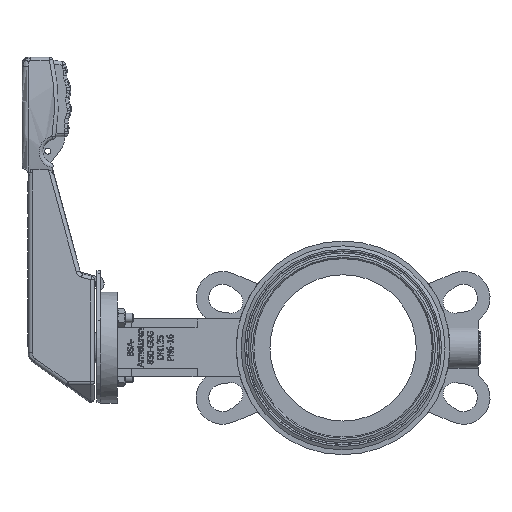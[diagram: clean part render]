
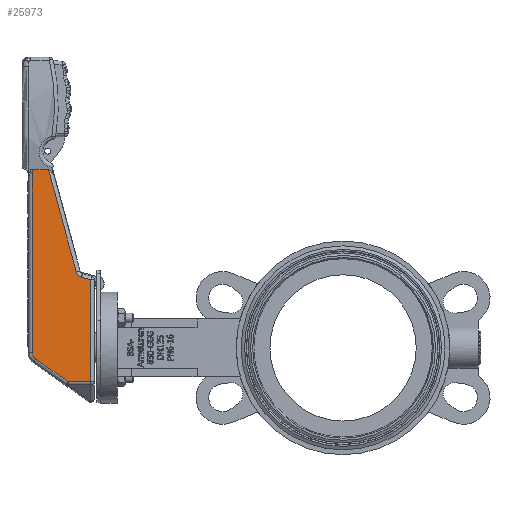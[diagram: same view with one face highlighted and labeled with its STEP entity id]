
A CAD part, left-side view. The second image highlights one B-rep face of the part: STEP entity #25973.
In plain terms, the highlighted planar face has unit normal (-1, 0, 0.032).
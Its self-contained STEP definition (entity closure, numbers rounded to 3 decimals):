
#23775=CARTESIAN_POINT('',(-20.6,227.665,-28.084));
#23776=VERTEX_POINT('',#23775);
#23810=CARTESIAN_POINT('',(-20.6,209.,-28.084));
#23811=VERTEX_POINT('',#23810);
#23819=CARTESIAN_POINT('',(-20.6,209.,-28.084));
#23820=DIRECTION('',(0.0,1.0,0.0));
#23821=VECTOR('',#23820,18.665);
#23822=LINE('',#23819,#23821);
#23823=EDGE_CURVE('',#23811,#23776,#23822,.T.);
#23893=CARTESIAN_POINT('',(-19.998,254.671,-9.174));
#23894=VERTEX_POINT('',#23893);
#23902=CARTESIAN_POINT('',(-19.831,257.4,-3.931));
#23903=VERTEX_POINT('',#23902);
#23904=CARTESIAN_POINT('',(-19.831,251.,-3.931));
#23905=DIRECTION('',(0.999,0.,-0.032));
#23906=DIRECTION('',(-0.032,0.,-0.999));
#23907=AXIS2_PLACEMENT_3D('',#23904,#23905,#23906);
#23908=ELLIPSE('',#23907,6.403,6.4);
#23909=EDGE_CURVE('',#23894,#23903,#23908,.T.);
#23927=CARTESIAN_POINT('',(-20.6,227.665,-28.084));
#23928=DIRECTION('',(0.018,0.819,0.573));
#23929=VECTOR('',#23928,32.974);
#23930=LINE('',#23927,#23929);
#23931=EDGE_CURVE('',#23776,#23894,#23930,.T.);
#23963=CARTESIAN_POINT('',(-15.089,257.4,144.947));
#23964=VERTEX_POINT('',#23963);
#23965=CARTESIAN_POINT('',(-19.831,257.4,-3.931));
#23966=DIRECTION('',(0.032,0.0,0.999));
#23967=VECTOR('',#23966,148.954);
#23968=LINE('',#23965,#23967);
#23969=EDGE_CURVE('',#23903,#23964,#23968,.T.);
#24373=CARTESIAN_POINT('',(-15.,258.024,147.748));
#24374=VERTEX_POINT('',#24373);
#24391=CARTESIAN_POINT('',(-15.089,257.4,144.947));
#24392=CARTESIAN_POINT('',(-15.059,257.4,145.91));
#24393=CARTESIAN_POINT('',(-15.028,257.613,146.87));
#24394=CARTESIAN_POINT('',(-15.,258.024,147.748));
#24395=B_SPLINE_CURVE_WITH_KNOTS('',3,(#24391,#24392,#24393,#24394),.UNSPECIFIED.,.F.,.U.,(4,4),(-0.922,-0.634),.UNSPECIFIED.);
#24396=EDGE_CURVE('',#23964,#24374,#24395,.T.);
#24652=CARTESIAN_POINT('',(-17.709,220.939,62.693));
#24653=VERTEX_POINT('',#24652);
#24661=CARTESIAN_POINT('',(-17.843,216.702,58.476));
#24662=VERTEX_POINT('',#24661);
#24663=CARTESIAN_POINT('',(-17.659,215.149,64.269));
#24664=DIRECTION('',(-0.999,0.,0.032));
#24665=DIRECTION('',(-0.023,0.706,-0.708));
#24666=AXIS2_PLACEMENT_3D('',#24663,#24664,#24665);
#24667=CIRCLE('',#24666,6.);
#24668=EDGE_CURVE('',#24653,#24662,#24667,.T.);
#24685=CARTESIAN_POINT('',(-15.,244.109,147.748));
#24686=VERTEX_POINT('',#24685);
#24702=CARTESIAN_POINT('',(-15.,244.109,147.748));
#24703=DIRECTION('',(-0.031,-0.263,-0.964));
#24704=VECTOR('',#24703,88.197);
#24705=LINE('',#24702,#24704);
#24706=EDGE_CURVE('',#24686,#24653,#24705,.T.);
#24833=CARTESIAN_POINT('',(-17.909,209.,56.413));
#24834=VERTEX_POINT('',#24833);
#24918=CARTESIAN_POINT('',(-17.843,216.702,58.476));
#24919=DIRECTION('',(-0.008,-0.966,-0.259));
#24920=VECTOR('',#24919,7.974);
#24921=LINE('',#24918,#24920);
#24922=EDGE_CURVE('',#24662,#24834,#24921,.T.);
#24937=CARTESIAN_POINT('',(-17.909,209.,56.413));
#24938=DIRECTION('',(-0.032,0.0,-0.999));
#24939=VECTOR('',#24938,84.54);
#24940=LINE('',#24937,#24939);
#24941=EDGE_CURVE('',#24834,#23811,#24940,.T.);
#25888=CARTESIAN_POINT('',(-15.,258.024,147.748));
#25889=DIRECTION('',(0.0,-1.0,0.0));
#25890=VECTOR('',#25889,13.915);
#25891=LINE('',#25888,#25890);
#25892=EDGE_CURVE('',#24374,#24686,#25891,.T.);
#25956=CARTESIAN_POINT('',(-20.,266.,-9.252));
#25957=DIRECTION('',(-0.999,0.,0.032));
#25958=DIRECTION('',(0.0,-1.0,0.0));
#25959=AXIS2_PLACEMENT_3D('',#25956,#25957,#25958);
#25960=PLANE('',#25959);
#25961=ORIENTED_EDGE('',*,*,#23823,.F.);
#25962=ORIENTED_EDGE('',*,*,#24941,.F.);
#25963=ORIENTED_EDGE('',*,*,#24922,.F.);
#25964=ORIENTED_EDGE('',*,*,#24668,.F.);
#25965=ORIENTED_EDGE('',*,*,#24706,.F.);
#25966=ORIENTED_EDGE('',*,*,#25892,.F.);
#25967=ORIENTED_EDGE('',*,*,#24396,.F.);
#25968=ORIENTED_EDGE('',*,*,#23969,.F.);
#25969=ORIENTED_EDGE('',*,*,#23909,.F.);
#25970=ORIENTED_EDGE('',*,*,#23931,.F.);
#25971=EDGE_LOOP('',(#25961,#25962,#25963,#25964,#25965,#25966,#25967,#25968,#25969,#25970));
#25972=FACE_OUTER_BOUND('',#25971,.T.);
#25973=ADVANCED_FACE('',(#25972),#25960,.T.);
